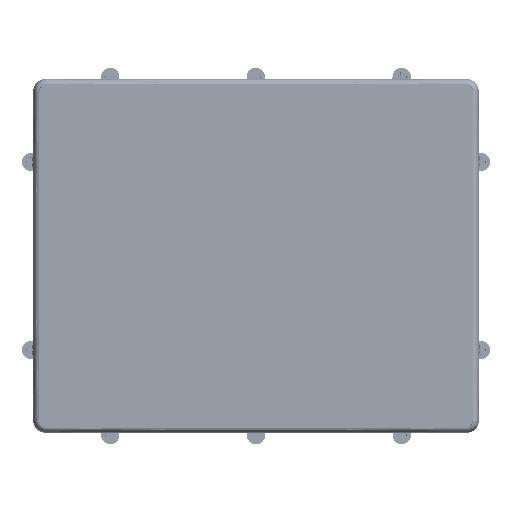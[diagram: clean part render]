
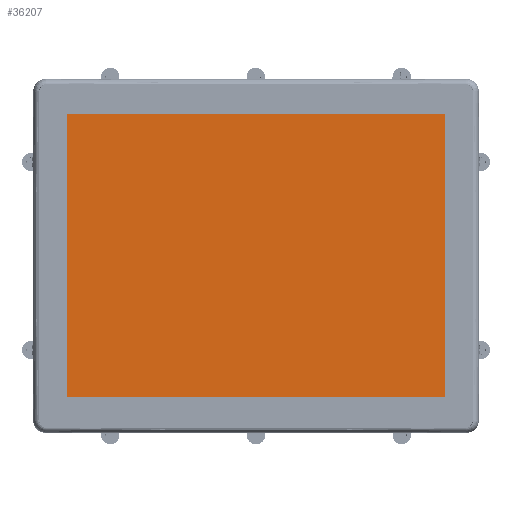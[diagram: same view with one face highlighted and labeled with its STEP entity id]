
A CAD part, top view. The second image highlights one B-rep face of the part: STEP entity #36207.
In plain terms, the highlighted planar face has unit normal (0, 0, 1).
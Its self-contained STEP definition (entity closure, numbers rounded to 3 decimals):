
#11907=DIRECTION('',(0.,-1.,0.));
#11908=VECTOR('',#11907,228.9);
#11909=CARTESIAN_POINT('',(-152.5,114.45,5.92));
#11910=LINE('',#11909,#11908);
#11923=DIRECTION('',(1.,0.,0.));
#11924=VECTOR('',#11923,305.);
#11925=CARTESIAN_POINT('',(-152.5,-114.45,5.92));
#11926=LINE('',#11925,#11924);
#11935=DIRECTION('',(0.,1.,0.));
#11936=VECTOR('',#11935,228.9);
#11937=CARTESIAN_POINT('',(152.5,-114.45,5.92));
#11938=LINE('',#11937,#11936);
#11947=DIRECTION('',(-1.,0.,0.));
#11948=VECTOR('',#11947,305.);
#11949=CARTESIAN_POINT('',(152.5,114.45,5.92));
#11950=LINE('',#11949,#11948);
#21337=CARTESIAN_POINT('',(152.5,114.45,5.92));
#21338=CARTESIAN_POINT('',(-152.5,114.45,5.92));
#21339=VERTEX_POINT('',#21337);
#21340=VERTEX_POINT('',#21338);
#21341=CARTESIAN_POINT('',(152.5,-114.45,5.92));
#21342=VERTEX_POINT('',#21341);
#21343=CARTESIAN_POINT('',(-152.5,-114.45,5.92));
#21344=VERTEX_POINT('',#21343);
#36196=CARTESIAN_POINT('',(0.,0.,5.92));
#36197=DIRECTION('',(0.,0.,1.));
#36198=DIRECTION('',(1.,0.,0.));
#36199=AXIS2_PLACEMENT_3D('',#36196,#36197,#36198);
#36200=PLANE('',#36199);
#36201=ORIENTED_EDGE('',*,*,#36184,.F.);
#36202=ORIENTED_EDGE('',*,*,#36164,.F.);
#36203=ORIENTED_EDGE('',*,*,#36143,.F.);
#36204=ORIENTED_EDGE('',*,*,#36122,.F.);
#36205=EDGE_LOOP('',(#36201,#36202,#36203,#36204));
#36206=FACE_OUTER_BOUND('',#36205,.F.);
#36207=ADVANCED_FACE('',(#36206),#36200,.T.);
#36122=EDGE_CURVE('',#21340,#21344,#11910,.T.);
#36143=EDGE_CURVE('',#21344,#21342,#11926,.T.);
#36164=EDGE_CURVE('',#21342,#21339,#11938,.T.);
#36184=EDGE_CURVE('',#21339,#21340,#11950,.T.);
